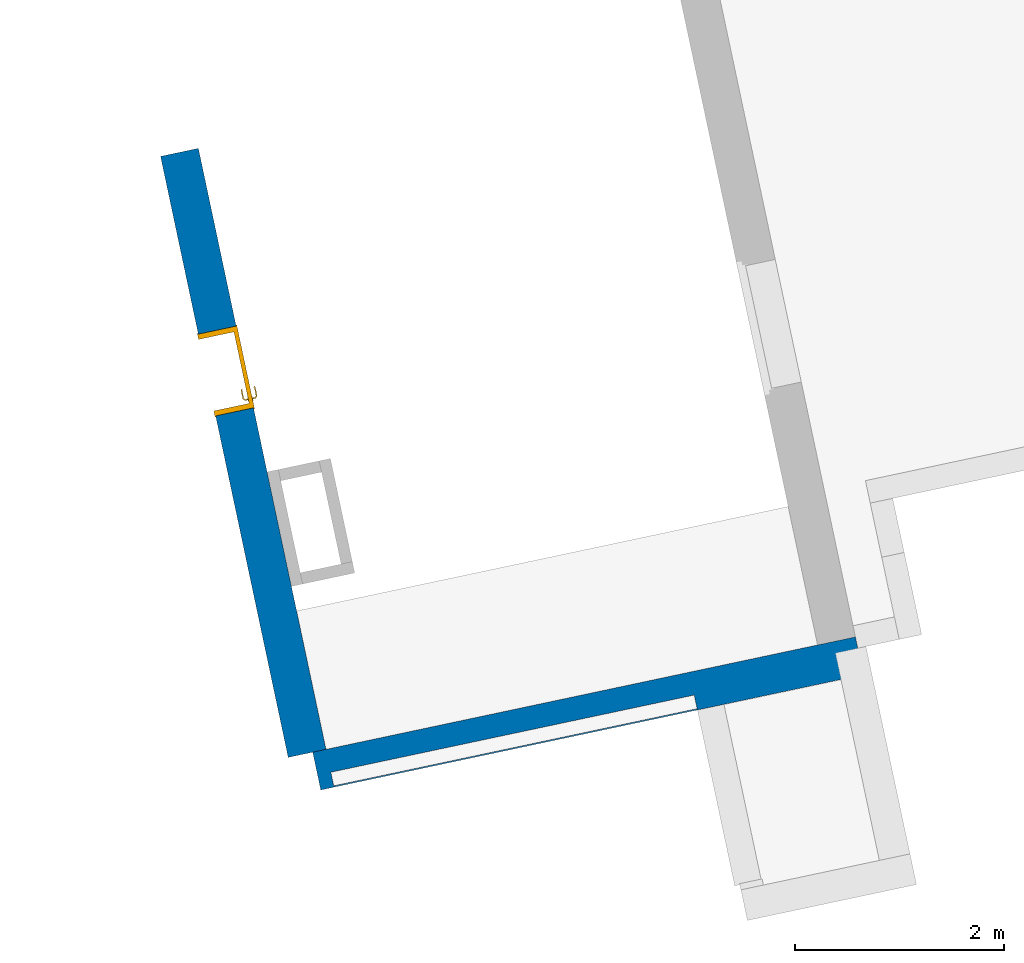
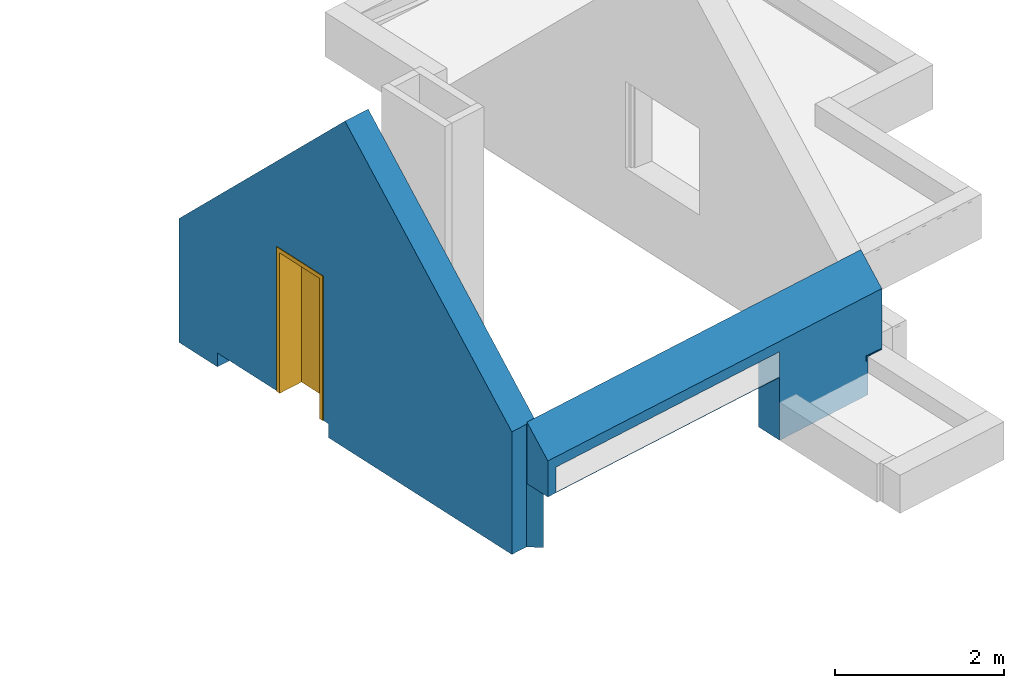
"""IFC2X3 building model written with IfcOpenShell, lengths in centimetres."""

import ifcopenshell
import ifcopenshell.guid

model = None  # the IFC model being written
_history = None  # IfcOwnerHistory: only IFC2X3 demands one
_inside = {}  # id of a spatial element -> (the spatial element, [elements in it])
_under = {}  # id of a project, library or spatial element -> (it, [spatial elements below it])
_declared = {}  # id of a project -> (the project, [libraries it declares])
_typed = {}  # id of a type object -> (the type object, [elements of that type])
_made_of = {}  # id of a material, layer set ... -> (it, [elements and type objects made of it])


def new_model(schema):
    """Start an empty IFC model of exactly this schema.

    Asked for "IFC4X3", IfcOpenShell would pick the latest addendum, in which some entities
    have other attributes; the version numbers below select the first issue.
    IFC2X3 requires an IfcOwnerHistory on every rooted entity: one is made here for all.
    """
    global model, _history
    if schema == "IFC4X3":
        model = ifcopenshell.file(schema_version=(4, 3, 0, 0))
    else:
        model = ifcopenshell.file(schema=schema)
    _inside.clear()
    _under.clear()
    _declared.clear()
    _typed.clear()
    _made_of.clear()
    _history = None
    if model.schema == "IFC2X3":
        org = make("IfcOrganization", Name="unknown")
        user = make(
            "IfcPersonAndOrganization",
            ThePerson=make("IfcPerson", FamilyName="unknown"),
            TheOrganization=org,
        )
        app = make(
            "IfcApplication",
            ApplicationDeveloper=org,
            Version="unknown",
            ApplicationFullName="unknown",
            ApplicationIdentifier="unknown",
        )
        _history = make(
            "IfcOwnerHistory",
            OwningUser=user,
            OwningApplication=app,
            ChangeAction="ADDED",
            CreationDate=0,
        )
    return model


def make(cls, **values):
    """One entity of the class cls with the attributes given. An attribute that is None is left unset."""
    return model.create_entity(
        cls, **{name: value for name, value in values.items() if value is not None}
    )


def entity(cls, *values):
    """Any entity or typed value of the class cls, its attributes in the order of the schema. None: left unset."""
    e = model.create_entity(cls)
    for i, value in enumerate(values):
        if value is not None:
            e[i] = value
    return e


def rooted(cls, **values):
    """An entity with a GlobalId (a new one), such as an element, a storey or a relation."""
    return make(cls, GlobalId=ifcopenshell.guid.new(), OwnerHistory=_history, **values)


def si_unit(unit_type, name, prefix=None):
    """IfcSIUnit, for example si_unit("LENGTHUNIT", "METRE", prefix="MILLI")."""
    return make("IfcSIUnit", UnitType=unit_type, Prefix=prefix, Name=name)


def converted_unit(unit_type, name, factor, base, dimensions=None, offset=None):
    """IfcConversionBasedUnit, such as the inch: factor (a typed value) times the base unit."""
    return make(
        "IfcConversionBasedUnit"
        if offset is None
        else "IfcConversionBasedUnitWithOffset",
        ConversionOffset=offset,
        Dimensions=None
        if dimensions is None
        else entity("IfcDimensionalExponents", *dimensions),
        UnitType=unit_type,
        Name=name,
        ConversionFactor=make(
            "IfcMeasureWithUnit", ValueComponent=factor, UnitComponent=base
        ),
    )


def derived_unit(unit_type, elements):
    """IfcDerivedUnit: a product of units, each with its exponent."""
    return make(
        "IfcDerivedUnit",
        Elements=[
            make("IfcDerivedUnitElement", Unit=unit, Exponent=power)
            for unit, power in elements
        ],
        UnitType=unit_type,
    )


def assignment(units):
    """IfcUnitAssignment: the units of a project."""
    return None if units is None else make("IfcUnitAssignment", Units=units)


def point(xyz):
    """IfcCartesianPoint."""
    return None if xyz is None else make("IfcCartesianPoint", Coordinates=xyz)


def direction(xyz):
    """IfcDirection."""
    return None if xyz is None else make("IfcDirection", DirectionRatios=xyz)


def frame(location, z_axis=None, x_axis=None):
    """IfcAxis2Placement3D, a coordinate frame: its origin and axes. An axis left out is left unset."""
    return make(
        "IfcAxis2Placement3D",
        Location=point(location),
        Axis=direction(z_axis),
        RefDirection=direction(x_axis),
    )


def frame_2d(location, x_axis=None):
    """IfcAxis2Placement2D, a coordinate frame in the plane: its origin and x axis."""
    return make(
        "IfcAxis2Placement2D", Location=point(location), RefDirection=direction(x_axis)
    )


def origin():
    """The frame at (0, 0, 0) with its axes left unset."""
    return frame((0.0, 0.0, 0.0))


def place(relative_to, where):
    """IfcLocalPlacement: puts the frame where relative to a parent placement (None: the world)."""
    return make(
        "IfcLocalPlacement", PlacementRelTo=relative_to, RelativePlacement=where
    )


def context(
    kind, dimensions, precision=None, world=None, true_north=None, identifier=None
):
    """IfcGeometricRepresentationContext, for example the 3D "Model" context."""
    return make(
        "IfcGeometricRepresentationContext",
        ContextIdentifier=identifier,
        ContextType=kind,
        CoordinateSpaceDimension=dimensions,
        Precision=precision,
        WorldCoordinateSystem=world,
        TrueNorth=true_north,
    )


def subcontext(parent, identifier, kind, view, scale=None):
    """IfcGeometricRepresentationSubContext, for example "Body" below "Model"."""
    return make(
        "IfcGeometricRepresentationSubContext",
        ContextIdentifier=identifier,
        ContextType=kind,
        ParentContext=parent,
        TargetScale=scale,
        TargetView=view,
    )


def project(units=None, contexts=None):
    """IfcProject with its units and contexts."""
    return rooted(
        "IfcProject",
        Name="project",
        RepresentationContexts=contexts,
        UnitsInContext=assignment(units),
    )


def spatial(cls, under=None, at=None, **own):
    """A site, building, storey or space (cls), placed at a placement, below another one or the project."""
    s = rooted(cls, ObjectPlacement=at, **own)
    if under is not None:
        _under.setdefault(under.id(), (under, []))[1].append(s)
    return s


def profile(cls, at=None, kind="AREA", **sizes):
    """A parametric profile (cls). Its sizes go by their IFC names, for example OverallWidth=200.0."""
    return make(cls, ProfileType=kind, Position=at, **sizes)


def rectangle(**sizes):
    """IfcRectangleProfileDef."""
    return profile("IfcRectangleProfileDef", **sizes)


def extrude(swept, where, along, depth):
    """IfcExtrudedAreaSolid: the profile swept, set in the frame where, extruded along a direction by depth."""
    return make(
        "IfcExtrudedAreaSolid",
        SweptArea=swept,
        Position=where,
        ExtrudedDirection=direction(along),
        Depth=depth,
    )


def faces_of(points, faces, orient=None, outer=None):
    """IfcFace entities. A face is a list of loops; a loop is a list of indices into points, from 0.

    orient and outer hold one flag for each loop. By default every Orientation is true, the
    first loop of a face is its IfcFaceOuterBound and the others are IfcFaceBound.
    """
    made = []
    for i, loops in enumerate(faces):
        bounds = []
        for j, loop in enumerate(loops):
            is_outer = j == 0 if outer is None else outer[i][j]
            bounds.append(
                make(
                    "IfcFaceOuterBound" if is_outer else "IfcFaceBound",
                    Bound=make("IfcPolyLoop", Polygon=[points[k] for k in loop]),
                    Orientation=True if orient is None else orient[i][j],
                )
            )
        made.append(make("IfcFace", Bounds=bounds))
    return made


def faceted_brep(points, faces, orient=None, outer=None, voids=None):
    """IfcFacetedBrep: a solid bounded by flat faces; with voids (closed shells), ...WithVoids."""
    shared = [point(p) for p in points]
    hull = make("IfcClosedShell", CfsFaces=faces_of(shared, faces, orient, outer))
    if voids is None:
        return make("IfcFacetedBrep", Outer=hull)
    return make(
        "IfcFacetedBrepWithVoids",
        Outer=hull,
        Voids=[
            make(cls, CfsFaces=faces_of(shared, fs, o, b)) for cls, fs, o, b in voids
        ],
    )


def shape(context_of_items, identifier, shape_type, items):
    """IfcShapeRepresentation: the items that make up one representation, for example the "Body"."""
    return make(
        "IfcShapeRepresentation",
        ContextOfItems=context_of_items,
        RepresentationIdentifier=identifier,
        RepresentationType=shape_type,
        Items=items,
    )


def source(mapping_origin, context_of_items, identifier, shape_type, items):
    """IfcRepresentationMap: a shape defined once, which mapped items show again and again."""
    return make(
        "IfcRepresentationMap",
        MappingOrigin=mapping_origin,
        MappedRepresentation=shape(context_of_items, identifier, shape_type, items),
    )


def transform(
    local_origin,
    x_axis=None,
    y_axis=None,
    z_axis=None,
    scale=None,
    scale2=None,
    scale3=None,
    uniform=True,
):
    """IfcCartesianTransformationOperator3D, or its non-uniform kind. x_axis, y_axis, z_axis: its Axis1, 2, 3."""
    if uniform:
        return make(
            "IfcCartesianTransformationOperator3D",
            Axis1=direction(x_axis),
            Axis2=direction(y_axis),
            LocalOrigin=point(local_origin),
            Scale=scale,
            Axis3=direction(z_axis),
        )
    return make(
        "IfcCartesianTransformationOperator3DnonUniform",
        Axis1=direction(x_axis),
        Axis2=direction(y_axis),
        LocalOrigin=point(local_origin),
        Scale=scale,
        Axis3=direction(z_axis),
        Scale2=scale2,
        Scale3=scale3,
    )


def mapped(mapping_source, mapping_target):
    """IfcMappedItem: shows the shape of a source again, moved by a transform."""
    return make(
        "IfcMappedItem", MappingSource=mapping_source, MappingTarget=mapping_target
    )


def material(Name=None, Category=None):
    """IfcMaterial."""
    return make("IfcMaterial", Name=Name, Category=Category)


def layer(
    of_material, thickness, ventilated=None, Name=None, Category=None, Priority=None
):
    """IfcMaterialLayer: one layer of a wall or slab, of a material (None: an air gap)."""
    return make(
        "IfcMaterialLayer",
        Material=of_material,
        LayerThickness=thickness,
        IsVentilated=ventilated,
        Name=Name,
        Category=Category,
        Priority=Priority,
    )


def layer_set(layers, Name=None):
    """IfcMaterialLayerSet."""
    return make("IfcMaterialLayerSet", MaterialLayers=layers, LayerSetName=Name)


def made_of(thing, what):
    """Note that an element or type object is made of a material, layer set ...; save() writes the relation."""
    if what is not None:
        _made_of.setdefault(what.id(), (what, []))[1].append(thing)
    return thing


def type_object(cls, material=None, **own):
    """A type object (cls), such as IfcWallType, which elements share."""
    return made_of(rooted(cls, **own), material)


def type_shapes(of_type, sources):
    """Give a type object the sources (RepresentationMaps) that its elements show as mapped items."""
    of_type.RepresentationMaps = sources


def element(
    cls,
    number,
    at=None,
    inside=None,
    cuts=None,
    type_object=None,
    material=None,
    context=None,
    identifier="Body",
    shape_type=None,
    held_by="IfcProductDefinitionShape",
    body=None,
    shapes=None,
    **own,
):
    """One element of the class cls, such as IfcWall. Its Tag is "e" and its number.

    at: its placement. inside: the storey or other place that contains it. cuts: it is an
    opening in that element (IfcRelVoidsElement). A single representation is given by context,
    identifier, shape_type and body (its items); several are given by shapes. held_by: the class
    of the entity that holds the representations. save() writes the other relations.
    """
    e = rooted(cls, Tag="e%d" % number, ObjectPlacement=at, **own)
    if body is not None:
        shapes = [shape(context, identifier, shape_type, body)]
    if shapes is not None:
        e.Representation = make(held_by, Representations=shapes)
    if inside is not None:
        _inside.setdefault(inside.id(), (inside, []))[1].append(e)
    if cuts is not None:
        rooted(
            "IfcRelVoidsElement", RelatingBuildingElement=cuts, RelatedOpeningElement=e
        )
    if type_object is not None:
        _typed.setdefault(type_object.id(), (type_object, []))[1].append(e)
    return made_of(e, material)


def fill(opening, filler):
    """IfcRelFillsElement: the door or window that sits in an opening."""
    return rooted(
        "IfcRelFillsElement",
        RelatingOpeningElement=opening,
        RelatedBuildingElement=filler,
    )


def aggregate(whole, parts):
    """IfcRelAggregates: a whole, such as a stair, and the parts it consists of."""
    return rooted("IfcRelAggregates", RelatingObject=whole, RelatedObjects=parts)


def save(model, path):
    """Write the relations noted so far, then the file.

    IfcRelAggregates (storeys below a building ...), IfcRelContainedInSpatialStructure (elements
    in a storey), IfcRelDefinesByType, IfcRelAssociatesMaterial and IfcRelDeclares: one each for
    every whole, place, type object, material and project.
    """
    for whole, parts in _under.values():
        aggregate(whole, parts)
    for where, things in _inside.values():
        rooted(
            "IfcRelContainedInSpatialStructure",
            RelatedElements=things,
            RelatingStructure=where,
        )
    for kind, things in _typed.values():
        rooted("IfcRelDefinesByType", RelatedObjects=things, RelatingType=kind)
    for what, things in _made_of.values():
        rooted("IfcRelAssociatesMaterial", RelatedObjects=things, RelatingMaterial=what)
    for by, libraries in _declared.values():
        rooted("IfcRelDeclares", RelatingContext=by, RelatedDefinitions=libraries)
    model.write(path)


model = new_model("IFC2X3")

# Units and contexts
model_context = context("Model", 3, precision=0.001, world=origin(), true_north=direction((6.12303176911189e-17, 1.0)))
body_context = subcontext(model_context, "Body", "Model", "MODEL_VIEW")
ifc_project = project(units=[si_unit("LENGTHUNIT", "METRE", prefix="CENTI"), si_unit("AREAUNIT", "SQUARE_METRE"), si_unit("VOLUMEUNIT", "CUBIC_METRE"), converted_unit("PLANEANGLEUNIT", "DEGREE", entity("IfcRatioMeasure", 0.0174532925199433), si_unit("PLANEANGLEUNIT", "RADIAN"), dimensions=[0, 0, 0, 0, 0, 0, 0]), si_unit("MASSUNIT", "GRAM", prefix="KILO"), derived_unit("MASSDENSITYUNIT", [(si_unit("MASSUNIT", "GRAM", prefix="KILO"), 1), (si_unit("LENGTHUNIT", "METRE"), -3)]), derived_unit("IONCONCENTRATIONUNIT", [(si_unit("MASSUNIT", "GRAM", prefix="KILO"), 1), (si_unit("LENGTHUNIT", "METRE"), -3)]), derived_unit("MOMENTOFINERTIAUNIT", [(si_unit("LENGTHUNIT", "METRE"), 4)]), si_unit("TIMEUNIT", "SECOND"), si_unit("FREQUENCYUNIT", "HERTZ"), si_unit("THERMODYNAMICTEMPERATUREUNIT", "DEGREE_CELSIUS"), derived_unit("THERMALTRANSMITTANCEUNIT", [(si_unit("MASSUNIT", "GRAM", prefix="KILO"), 1), (si_unit("THERMODYNAMICTEMPERATUREUNIT", "KELVIN"), -1), (si_unit("TIMEUNIT", "SECOND"), -3)]), derived_unit("THERMALCONDUCTANCEUNIT", [(si_unit("MASSUNIT", "GRAM", prefix="KILO"), 1), (si_unit("THERMODYNAMICTEMPERATUREUNIT", "KELVIN"), -1), (si_unit("TIMEUNIT", "SECOND"), -3), (si_unit("LENGTHUNIT", "METRE"), 1)]), derived_unit("VOLUMETRICFLOWRATEUNIT", [(si_unit("LENGTHUNIT", "METRE"), 3), (si_unit("TIMEUNIT", "SECOND"), -1)]), derived_unit("MASSFLOWRATEUNIT", [(si_unit("MASSUNIT", "GRAM", prefix="KILO"), 1), (si_unit("TIMEUNIT", "SECOND"), -1)]), derived_unit("ROTATIONALFREQUENCYUNIT", [(si_unit("TIMEUNIT", "SECOND"), -1)]), si_unit("ELECTRICCURRENTUNIT", "AMPERE"), si_unit("ELECTRICVOLTAGEUNIT", "VOLT"), si_unit("POWERUNIT", "WATT"), si_unit("FORCEUNIT", "NEWTON", prefix="KILO"), si_unit("ILLUMINANCEUNIT", "LUX"), si_unit("LUMINOUSFLUXUNIT", "LUMEN"), si_unit("LUMINOUSINTENSITYUNIT", "CANDELA"), derived_unit("USERDEFINED", [(si_unit("MASSUNIT", "GRAM", prefix="KILO"), -1), (si_unit("LENGTHUNIT", "METRE"), -2), (si_unit("TIMEUNIT", "SECOND"), 3), (si_unit("LUMINOUSFLUXUNIT", "LUMEN"), 1)]), derived_unit("USERDEFINED", [(si_unit("MASSUNIT", "GRAM", prefix="KILO"), 1), (si_unit("TIMEUNIT", "SECOND"), -3), (si_unit("LENGTHUNIT", "METRE"), 3), (si_unit("ELECTRICCURRENTUNIT", "AMPERE"), -2)]), derived_unit("SOUNDPOWERUNIT", [(si_unit("MASSUNIT", "GRAM", prefix="KILO"), 1), (si_unit("TIMEUNIT", "SECOND"), -3), (si_unit("LENGTHUNIT", "METRE"), 2)]), derived_unit("SOUNDPRESSUREUNIT", [(si_unit("MASSUNIT", "GRAM", prefix="KILO"), 1), (si_unit("LENGTHUNIT", "METRE"), -1), (si_unit("TIMEUNIT", "SECOND"), -2)]), derived_unit("LINEARVELOCITYUNIT", [(si_unit("LENGTHUNIT", "METRE"), 1), (si_unit("TIMEUNIT", "SECOND"), -1)]), si_unit("PRESSUREUNIT", "PASCAL"), derived_unit("USERDEFINED", [(si_unit("MASSUNIT", "GRAM", prefix="KILO"), 1), (si_unit("LENGTHUNIT", "METRE"), -2), (si_unit("TIMEUNIT", "SECOND"), -2)]), derived_unit("LINEARFORCEUNIT", [(si_unit("MASSUNIT", "GRAM", prefix="KILO"), 1), (si_unit("TIMEUNIT", "SECOND"), -2)]), derived_unit("PLANARFORCEUNIT", [(si_unit("MASSUNIT", "GRAM", prefix="KILO"), 1), (si_unit("LENGTHUNIT", "METRE"), -1), (si_unit("TIMEUNIT", "SECOND"), -2)]), derived_unit("SPECIFICHEATCAPACITYUNIT", [(si_unit("THERMODYNAMICTEMPERATUREUNIT", "KELVIN"), -1), (si_unit("LENGTHUNIT", "METRE"), 2), (si_unit("TIMEUNIT", "SECOND"), -2)]), derived_unit("HEATINGVALUEUNIT", [(si_unit("LENGTHUNIT", "METRE"), 2), (si_unit("TIMEUNIT", "SECOND"), -2)]), derived_unit("VAPORPERMEABILITYUNIT", [(si_unit("LENGTHUNIT", "METRE"), -1), (si_unit("TIMEUNIT", "SECOND"), 1)]), derived_unit("DYNAMICVISCOSITYUNIT", [(si_unit("MASSUNIT", "GRAM", prefix="KILO"), 1), (si_unit("TIMEUNIT", "SECOND"), -1), (si_unit("LENGTHUNIT", "METRE"), -1)]), derived_unit("THERMALEXPANSIONCOEFFICIENTUNIT", [(si_unit("THERMODYNAMICTEMPERATUREUNIT", "KELVIN"), -1)]), derived_unit("MODULUSOFELASTICITYUNIT", [(si_unit("MASSUNIT", "GRAM", prefix="KILO"), 1), (si_unit("LENGTHUNIT", "METRE"), -1), (si_unit("TIMEUNIT", "SECOND"), -2)]), derived_unit("ISOTHERMALMOISTURECAPACITYUNIT", [(si_unit("LENGTHUNIT", "METRE"), 3), (si_unit("MASSUNIT", "GRAM", prefix="KILO"), -1)]), derived_unit("MOISTUREDIFFUSIVITYUNIT", [(si_unit("TIMEUNIT", "SECOND"), -1), (si_unit("LENGTHUNIT", "METRE"), 2)])], contexts=[model_context])

# Site, building, storey
site_placement = place(None, frame((14083.8920177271, -6853.25409548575, 6900.0), z_axis=(0.0, 0.0, 1.0), x_axis=(0.978188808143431, 0.207717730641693, 0.0)))
site = spatial("IfcSite", under=ifc_project, at=site_placement, Name="Surface", CompositionType="ELEMENT")
building_placement = place(site_placement, origin())
building = spatial("IfcBuilding", under=site, at=building_placement, CompositionType="ELEMENT")
storey_1_placement = place(building_placement, frame((0.0, 0.0, 269.0)))
storey_1 = spatial("IfcBuildingStorey", under=building, at=storey_1_placement, Name="***R+1 (SD)***", CompositionType="ELEMENT", Elevation=269.0)

# Wall
ifc_material_1 = material(Name="__ ENDUIT_Blanc")
ifc_layer_1 = layer(ifc_material_1, 2.0)
ifc_material_2 = material(Name="__ BETON_parpaings")
ifc_layer_2 = layer(ifc_material_2, 20.0)
ifc_material_3 = material(Name="__ ISOLANT (pat 1)")
ifc_layer_3 = layer(ifc_material_3, 13.0)
ifc_layer_4 = layer(ifc_material_1, 2.0)
ifc_layer_set = layer_set([ifc_layer_1, ifc_layer_2, ifc_layer_3, ifc_layer_4], Name="Mur de base:*BRIQUE 37 (20 +INT 13+2 + EXT 2) (Iso+BA13)(enduit)")
wall_type = type_object("IfcWallType", Name="Mur de base:*BRIQUE 37 (20 +INT 13+2 + EXT 2) (Iso+BA13)(enduit)", PredefinedType="STANDARD", material=ifc_layer_set)
wall_1_placement = place(storey_1_placement, frame((-6783.9551432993, 14783.1724778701, 0.0)))
element("IfcWall", 1, at=wall_1_placement, inside=storey_1, type_object=wall_type, Name="Mur de base:*BRIQUE 37 (20 +INT 13+2 + EXT 2) (Iso+BA13)(enduit)", ObjectType="Mur de base:*BRIQUE 37 (20 +INT 13+2 + EXT 2) (Iso+BA13)(enduit)", context=body_context, shape_type="Brep", body=[
    faceted_brep([(0.0, -18.500000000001, 91.0079571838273), (368.641924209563, -18.500000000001, 91.0079571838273), (368.641924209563, -18.500000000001, 55.0), (368.641924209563, -18.500000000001, 0.0), (394.641924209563, -18.500000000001, 0.0), (509.141924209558, -18.500000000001, 0.0), (509.141924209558, -18.500000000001, 55.0), (531.141924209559, -18.500000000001, 55.0), (531.141924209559, -18.500000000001, 55.8148964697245), (507.19692641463, -18.500000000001, 56.6510742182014), (506.952629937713, -18.500000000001, 49.6553384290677), (505.953239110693, -18.500000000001, 49.6902379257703), (506.187785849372, -18.500000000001, 56.406777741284), (506.232435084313, -18.500000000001, 57.685364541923), (531.141924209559, -18.500000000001, 56.8155060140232), (531.141924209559, -18.500000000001, 143.0), (0.0, -18.500000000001, 143.0), (13.0, -18.500000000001, 127.962118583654), (368.641924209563, -18.500000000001, 127.962118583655), (368.641924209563, -18.500000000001, 91.7198769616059), (13.0, -18.500000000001, 91.7198769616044), (0.0, 18.4999999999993, 91.0079571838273), (0.0, 18.4999999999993, 180.0), (494.141924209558, 18.4999999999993, 180.0), (531.141924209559, 18.4999999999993, 180.0), (531.141924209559, 18.4999999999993, 0.0), (494.141924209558, 18.4999999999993, 0.0), (368.641924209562, 18.4999999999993, 0.0), (368.641924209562, 18.4999999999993, 72.0466279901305), (368.641924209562, 18.4999999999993, 108.28886961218), (13.0, 18.4999999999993, 108.288869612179), (13.0, 18.4999999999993, 91.0079571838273), (509.141924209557, 7.49486685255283, 0.0), (509.141924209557, 7.49486685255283, 55.0), (531.141924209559, 7.49486685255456, 55.0), (531.141924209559, 7.49486685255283, 0.0), (531.141924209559, 7.49486685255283, 51.5003654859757), (531.141924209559, 7.49486685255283, 52.5004060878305), (531.141924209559, 7.49486685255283, 56.8155060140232), (531.141924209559, 7.49486685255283, 55.8148964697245), (506.952629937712, 7.49486685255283, 49.6553384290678), (507.196926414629, 7.49486685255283, 56.6510742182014), (506.232435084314, 7.49486685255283, 57.685364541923), (506.187785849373, 7.49486685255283, 56.4067777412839), (505.953239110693, 7.49486685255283, 49.6902379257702), (13.0, -17.1610736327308, 91.0079571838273), (368.641924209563, -17.1610736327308, 91.0079571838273)], [[[0, 1, 2, 3, 4, 5, 6, 7, 8, 9, 10, 11, 12, 13, 14, 15, 16], [17, 18, 19, 20]], [[21, 22, 23, 24, 25, 26, 27, 28, 29, 30, 31]], [[16, 15, 24, 23, 22]], [[32, 33, 6, 5]], [[6, 33, 34, 7]], [[33, 32, 35, 36, 37, 34]], [[25, 24, 15, 14, 38, 39, 8, 7, 34, 37, 36, 35]], [[40, 41, 39, 38, 42, 43, 44]], [[39, 41, 9, 8]], [[43, 42, 13, 12]], [[42, 38, 14, 13]], [[41, 40, 10, 9]], [[44, 43, 12, 11]], [[40, 44, 11, 10]], [[1, 0, 21, 31, 45, 46]], [[0, 16, 22, 21]], [[27, 26, 25, 35, 32, 5, 4, 3]], [[3, 2, 1, 46, 19, 18, 29, 28, 27]], [[29, 18, 17, 30]], [[19, 46, 45, 20]], [[30, 17, 20, 45, 31]]]),
])

# Wall, opening
wall_2_placement = place(storey_1_placement, frame((-6789.4551432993, 14787.214901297, 0.0), z_axis=(0.0, 0.0, 1.0), x_axis=(0.0, 1.0, 0.0)))
wall_2 = element("IfcWall", 2, at=wall_2_placement, inside=storey_1, type_object=wall_type, Name="Mur de base:*BRIQUE 37 (20 +INT 13+2 + EXT 2) (Iso+BA13)(enduit)", ObjectType="Mur de base:*BRIQUE 37 (20 +INT 13+2 + EXT 2) (Iso+BA13)(enduit)", context=body_context, shape_type="Brep", body=[
    faceted_brep([(428.72424323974, -18.5000000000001, 227.5), (428.72424323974, -18.5000000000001, 20.0), (602.724243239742, -18.5000000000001, 20.0), (602.724243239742, -18.5000000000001, 178.693308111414), (309.437563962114, -18.5000000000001, 471.979987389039), (0.0, -18.5000000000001, 162.542423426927), (0.0, -18.5000000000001, 0.0), (151.957576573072, -18.5000000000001, 0.0), (151.957576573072, -18.5000000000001, 20.0), (348.724243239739, -18.5000000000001, 20.0), (348.724243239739, -18.5000000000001, 227.5), (14.4575765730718, 18.5000000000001, 0.0), (14.4575765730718, 18.5000000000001, 177.0), (265.090909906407, 18.5000000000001, 427.633333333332), (291.253860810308, 18.5000000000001, 453.796284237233), (309.437563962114, 18.5000000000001, 471.979987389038), (602.724243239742, 18.5000000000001, 178.693308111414), (602.724243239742, 18.5000000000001, 175.693308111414), (602.724243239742, 18.5000000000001, 20.0), (602.724243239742, 18.5000000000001, 0.0), (534.72424323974, 18.5000000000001, 0.0), (534.72424323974, 18.5000000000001, 20.0), (522.724243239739, 18.5000000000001, 20.0), (428.72424323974, 18.5000000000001, 20.0), (428.724243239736, 18.5000000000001, 227.5), (348.724243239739, 18.5000000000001, 227.5), (348.724243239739, 18.5000000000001, 20.0), (338.810729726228, 18.5000000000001, 20.0), (338.810729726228, 18.5000000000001, 0.0), (149.957576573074, 18.5000000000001, 0.0), (14.45757657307, -5.01809173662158, 0.0), (338.810729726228, 0.0, 0.0), (151.957576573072, 0.0, 0.0), (14.45757657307, -5.01809173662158, 177.0), (602.724243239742, 0.0, 20.0), (602.724243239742, 0.0, 0.0), (534.72424323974, 0.0, 0.0), (534.72424323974, 0.0, 20.0), (151.957576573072, 0.0, 20.0), (338.810729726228, 0.0, 20.0)], [[[0, 1, 2, 3, 4, 5, 6, 7, 8, 9, 10]], [[11, 12, 13, 14, 15, 16, 17, 18, 19, 20, 21, 22, 23, 24, 25, 26, 27, 28, 29]], [[6, 30, 11, 29, 28, 31, 32, 7]], [[0, 24, 23, 1]], [[24, 0, 10, 25]], [[25, 10, 9, 26]], [[5, 4, 15, 14, 13, 12, 33]], [[4, 3, 16, 15]], [[19, 18, 17, 16, 3, 2, 34, 35]], [[6, 5, 33, 30]], [[12, 11, 30, 33]], [[36, 37, 21, 20]], [[37, 36, 35, 34]], [[38, 32, 31, 39]], [[39, 31, 28, 27]], [[38, 39, 27, 26, 9, 8]], [[32, 38, 8, 7]], [[21, 37, 34, 2, 1, 23, 22]], [[20, 19, 35, 36]]]),
])
opening_placement = place(wall_2_placement, frame((428.72424323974, 18.5, 20.0)))
opening = element("IfcOpeningElement", 3, at=opening_placement, cuts=wall_2, Name="*Porte_alveolaire:Pa 73 x 204:1", ObjectType="Opening", context=body_context, shape_type="SweptSolid", body=[
    extrude(rectangle(XDim=207.5, YDim=79.9999999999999, at=frame_2d((103.75, 40.0000000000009), x_axis=(1.0, 0.0))), frame((0.0, 0.0, 0.0), z_axis=(0.0, -1.0, 0.0), x_axis=(0.0, 0.0, 1.0)), (0.0, 0.0, 1.0), 37.0),
])

# Storey
storey_2_placement = place(building_placement, frame((0.0, 0.0, 289.0)))
storey_2 = spatial("IfcBuildingStorey", under=building, at=storey_2_placement, Name="_R+1", CompositionType="ELEMENT", Elevation=289.0)

# Door
ifc_material_4 = material(Name="<Unnamed>")
door_style = type_object("IfcDoorStyle", Name="*Porte_alveolaire:Pa 73 x 204", ConstructionType="NOTDEFINED", OperationType="NOTDEFINED", ParameterTakesPrecedence=False, Sizeable=False, material=ifc_material_4)
shared_shape = source(origin(), body_context, "Body", "Brep", [
    faceted_brep([(8.79747013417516, 3.69999999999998, 89.2219559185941), (9.20252986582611, 3.69999999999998, 89.221955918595), (9.60000000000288, 3.69999999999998, 89.3000000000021), (9.60000000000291, 3.69999999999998, 90.699999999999), (9.20252986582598, 3.69999999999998, 90.7780440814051), (8.79747013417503, 3.69999999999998, 90.7780440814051), (8.39999999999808, 3.69999999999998, 90.699999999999), (8.39999999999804, 3.69999999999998, 89.2999999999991), (9.60000000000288, 5.94852045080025, 89.3000000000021), (9.60000000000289, 5.94852045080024, 90.699999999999), (9.20252986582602, 6.11315797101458, 90.7780440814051), (10.5838906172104, 7.49451872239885, 90.7780440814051), (10.4161093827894, 7.89957845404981, 90.7780440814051), (8.79747013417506, 6.28093920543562, 90.7780440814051), (19.5684749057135, 6.84673156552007, 90.7780440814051), (19.8548953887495, 7.1331520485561, 90.7780440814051), (19.0884689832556, 7.89957845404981, 90.7780440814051), (18.9206877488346, 7.49451872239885, 90.7780440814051), (8.3999999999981, 6.44557672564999, 90.699999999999), (8.39999999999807, 6.44557672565, 89.2999999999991), (8.79747013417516, 6.28093920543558, 89.2219559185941), (10.4161093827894, 7.89957845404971, 89.2219559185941), (10.5838906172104, 7.49451872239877, 89.221955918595), (9.2025298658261, 6.11315797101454, 89.221955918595), (19.8548953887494, 7.133152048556, 89.221955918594), (19.5684749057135, 6.84673156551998, 89.221955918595), (18.9206877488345, 7.49451872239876, 89.221955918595), (19.0884689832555, 7.89957845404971, 89.221955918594), (10.7485281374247, 7.09704858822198, 89.3000000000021), (10.7485281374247, 7.09704858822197, 90.699999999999), (10.251471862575, 8.29704858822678, 90.699999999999), (10.251471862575, 8.2970485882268, 89.2999999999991), (14.7522879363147, 7.09704858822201, 89.300000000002), (18.7560502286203, 7.09704858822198, 89.300000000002), (18.7560502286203, 7.09704858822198, 90.699999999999), (14.7522891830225, 7.09704858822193, 90.699999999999), (14.7522891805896, 7.71249275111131, 90.7878116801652), (19.2531065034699, 8.29704858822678, 90.699999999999), (15.260057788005, 8.29704858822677, 90.699999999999), (19.2531065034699, 8.2970485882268, 89.2999999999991), (14.2445205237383, 8.29704858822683, 89.2999999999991), (14.7522892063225, 7.71249274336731, 89.2121883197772), (19.287421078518, 6.56567773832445, 89.300000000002), (20.1359492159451, 7.41420587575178, 89.2999999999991), (20.1359492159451, 7.41420587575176, 90.699999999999), (19.287421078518, 6.56567773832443, 90.699999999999)], [[[0, 1, 2, 3, 4, 5, 6, 7]], [[3, 2, 8, 9]], [[9, 10, 4, 3]], [[10, 11, 12, 13, 5, 4]], [[14, 15, 16, 17]], [[13, 18, 6, 5]], [[7, 6, 18, 19]], [[19, 20, 0, 7]], [[20, 21, 22, 23, 1, 0]], [[24, 25, 26, 27]], [[23, 8, 2, 1]], [[9, 8, 28, 29]], [[29, 11, 10, 9]], [[12, 30, 18, 13]], [[19, 18, 30, 31]], [[31, 21, 20, 19]], [[22, 28, 8, 23]], [[28, 32, 33, 34, 35, 29]], [[11, 35, 36]], [[16, 37, 38]], [[30, 12, 38]], [[38, 12, 36]], [[36, 35, 17]], [[17, 16, 36]], [[35, 11, 29]], [[34, 17, 35]], [[11, 36, 12]], [[38, 36, 16]], [[31, 30, 38, 37, 39, 40]], [[40, 41, 21]], [[41, 40, 27]], [[21, 31, 40]], [[39, 27, 40]], [[41, 32, 22]], [[22, 21, 41]], [[26, 32, 41]], [[28, 22, 32]], [[32, 26, 33]], [[26, 41, 27]], [[42, 25, 24, 43, 44, 15, 14, 45]], [[34, 33, 42, 45]], [[45, 14, 17, 34]], [[15, 44, 37, 16]], [[39, 37, 44, 43]], [[43, 24, 27, 39]], [[25, 42, 33, 26]]]),
    faceted_brep([(8.79747013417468, -1.30000000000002, 90.7780440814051), (9.20252986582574, -1.30000000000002, 90.7780440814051), (9.6000000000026, -1.30000000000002, 90.6999999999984), (9.60000000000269, -1.30000000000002, 89.3000000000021), (9.20252986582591, -1.30000000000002, 89.221955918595), (8.79747013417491, -1.30000000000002, 89.221955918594), (8.39999999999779, -1.30000000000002, 89.2999999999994), (8.39999999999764, -1.30000000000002, 90.699999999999), (8.39999999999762, -4.06509507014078, 90.6999999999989), (8.79747013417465, -3.9004575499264, 90.7780440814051), (10.4023585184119, -5.50534593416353, 90.7780440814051), (10.570139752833, -5.10028620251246, 90.7780440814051), (9.2025298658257, -3.73267631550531, 90.7780440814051), (19.852181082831, -4.73891952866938, 90.778044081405), (19.5657605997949, -4.45249904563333, 90.778044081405), (18.9179734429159, -5.10028620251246, 90.778044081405), (19.085754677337, -5.50534593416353, 90.778044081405), (9.60000000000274, -3.56803879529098, 90.699999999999), (9.60000000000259, -3.56803879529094, 89.3000000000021), (9.20252986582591, -3.73267631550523, 89.221955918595), (10.5701397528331, -5.10028620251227, 89.221955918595), (10.402358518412, -5.50534593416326, 89.221955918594), (8.79747013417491, -3.90045754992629, 89.221955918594), (19.5657605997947, -4.4524990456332, 89.221955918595), (19.8521810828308, -4.73891952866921, 89.221955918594), (19.0857546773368, -5.50534593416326, 89.221955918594), (18.9179734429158, -5.10028620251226, 89.221955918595), (8.3999999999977, -4.06509507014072, 89.2999999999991), (10.2377209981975, -5.90281606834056, 90.6999999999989), (10.7347772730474, -4.70281606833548, 90.699999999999), (10.7347772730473, -4.70281606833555, 89.3000000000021), (10.2377209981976, -5.90281606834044, 89.2999999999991), (14.2307697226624, -5.90281606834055, 90.6999999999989), (14.7440566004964, -5.31828027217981, 90.7878115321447), (19.2503921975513, -5.90281606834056, 90.6999999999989), (14.7440565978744, -4.70281606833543, 90.699999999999), (18.7533359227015, -4.70281606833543, 90.6999999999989), (18.7533359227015, -4.70281606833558, 89.300000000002), (14.7440563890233, -4.70281606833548, 89.3000000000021), (14.7440565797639, -5.31828027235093, 89.2121884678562), (19.2503921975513, -5.90281606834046, 89.2999999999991), (15.2573436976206, -5.90281606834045, 89.2999999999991), (19.2847067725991, -4.17144521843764, 90.6999999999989), (20.1332349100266, -5.01997335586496, 90.6999999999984), (20.1332349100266, -5.019973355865, 89.2999999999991), (19.2847067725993, -4.17144521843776, 89.3000000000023)], [[[0, 1, 2, 3, 4, 5, 6, 7]], [[8, 9, 0, 7]], [[9, 10, 11, 12, 1, 0]], [[13, 14, 15, 16]], [[12, 17, 2, 1]], [[3, 2, 17, 18]], [[18, 19, 4, 3]], [[19, 20, 21, 22, 5, 4]], [[23, 24, 25, 26]], [[22, 27, 6, 5]], [[7, 6, 27, 8]], [[28, 10, 9, 8]], [[11, 29, 17, 12]], [[18, 17, 29, 30]], [[30, 20, 19, 18]], [[21, 31, 27, 22]], [[8, 27, 31, 28]], [[32, 33, 10]], [[33, 32, 16]], [[10, 28, 32]], [[34, 16, 32]], [[33, 35, 11]], [[11, 10, 33]], [[15, 35, 33]], [[29, 11, 35]], [[35, 15, 36]], [[15, 33, 16]], [[30, 29, 35, 36, 37, 38]], [[20, 38, 39]], [[25, 40, 41]], [[31, 21, 41]], [[41, 21, 39]], [[39, 38, 26]], [[26, 25, 39]], [[38, 20, 30]], [[37, 26, 38]], [[20, 39, 21]], [[41, 39, 25]], [[28, 31, 41, 40, 34, 32]], [[42, 14, 13, 43, 44, 24, 23, 45]], [[43, 13, 16, 34]], [[14, 42, 36, 15]], [[37, 36, 42, 45]], [[45, 23, 26, 37]], [[24, 44, 40, 25]], [[34, 40, 44, 43]]]),
    faceted_brep([(10.03527618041, 3.19999999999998, 76.6003983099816), (11.0, 3.19999999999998, 77.0), (11.0, 3.19999999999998, 98.0), (10.03527618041, 3.19999999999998, 98.3996016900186), (9.0, 3.19999999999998, 98.5358983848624), (7.96472381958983, 3.19999999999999, 98.3996016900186), (7.0, 3.19999999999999, 98.0), (7.0, 3.19999999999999, 77.0), (7.96472381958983, 3.19999999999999, 76.6003983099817), (9.0, 3.19999999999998, 76.4641016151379), (10.03527618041, 3.69999999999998, 98.3996016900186), (11.0, 3.69999999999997, 98.0), (11.0, 3.69999999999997, 77.0), (10.03527618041, 3.69999999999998, 76.6003983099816), (9.0, 3.69999999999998, 76.4641016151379), (7.96472381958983, 3.69999999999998, 76.6003983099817), (7.0, 3.69999999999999, 77.0), (7.0, 3.69999999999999, 98.0), (7.96472381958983, 3.69999999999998, 98.3996016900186), (9.0, 3.69999999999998, 98.5358983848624)], [[[0, 1, 2, 3, 4, 5, 6, 7, 8, 9]], [[10, 11, 12, 13, 14, 15, 16, 17, 18, 19]], [[11, 10, 3, 2]], [[3, 10, 19, 4]], [[19, 18, 5, 4]], [[18, 17, 6, 5]], [[7, 6, 17, 16]], [[16, 15, 8, 7]], [[8, 15, 14, 9]], [[14, 13, 0, 9]], [[13, 12, 1, 0]], [[2, 1, 12, 11]]]),
    faceted_brep([(10.0352761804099, -1.30000000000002, 76.6003983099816), (11.0, -1.30000000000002, 77.0), (11.0, -1.30000000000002, 98.0), (10.03527618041, -1.30000000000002, 98.3996016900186), (9.0, -1.30000000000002, 98.5358983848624), (7.96472381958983, -1.30000000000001, 98.3996016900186), (7.0, -1.30000000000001, 98.0), (7.0, -1.30000000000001, 77.0), (7.9647238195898, -1.30000000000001, 76.6003983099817), (9.0, -1.30000000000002, 76.4641016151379), (10.03527618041, -0.800000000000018, 98.3996016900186), (11.0, -0.800000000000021, 98.0), (11.0, -0.800000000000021, 77.0), (10.0352761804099, -0.800000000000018, 76.6003983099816), (9.0, -0.800000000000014, 76.4641016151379), (7.9647238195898, -0.800000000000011, 76.6003983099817), (7.0, -0.800000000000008, 77.0), (7.0, -0.800000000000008, 98.0), (7.96472381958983, -0.800000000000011, 98.3996016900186), (9.0, -0.800000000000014, 98.5358983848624)], [[[0, 1, 2, 3, 4, 5, 6, 7, 8, 9]], [[10, 11, 12, 13, 14, 15, 16, 17, 18, 19]], [[16, 15, 8, 7]], [[8, 15, 14, 9]], [[14, 13, 0, 9]], [[13, 12, 1, 0]], [[2, 1, 12, 11]], [[11, 10, 3, 2]], [[3, 10, 19, 4]], [[19, 18, 5, 4]], [[18, 17, 6, 5]], [[7, 6, 17, 16]]]),
    faceted_brep([(0.0, 0.0, 0.0), (0.0, 37.0, 0.0), (-1.0, 37.0, 0.0), (-1.0, 37.8000000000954, 0.0), (5.0, 37.8000000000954, 0.0), (5.0, 3.2, 0.0), (3.49999999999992, 3.2, 0.0), (3.49999999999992, -0.800000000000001, 0.0), (-1.0, -0.800000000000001, 0.0), (-1.0, 0.0, 0.0), (0.0, 0.0, 207.5), (0.0, 37.0, 207.5), (80.0, 37.0, 207.5), (80.0, 37.0, 0.0), (81.0, 37.0, 0.0), (81.0, 37.0, 208.5), (-1.0, 37.0, 208.5), (-1.0, 37.8000000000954, 208.5), (81.0, 37.8000000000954, 208.5), (81.0, 37.8000000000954, 0.0), (75.0, 37.8000000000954, 0.0), (75.0, 37.8000000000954, 202.500000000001), (5.0, 37.8000000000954, 202.500000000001), (5.0, 3.2, 202.500000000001), (75.0, 3.2, 202.500000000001), (75.0, 3.2, 0.0), (76.5, 3.2, 0.0), (76.5, 3.2, 204.0), (3.49999999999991, 3.2, 204.0), (3.49999999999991, -0.800000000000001, 204.0), (76.5, -0.800000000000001, 204.0), (76.5, -0.800000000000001, 0.0), (81.0, -0.800000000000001, 0.0), (81.0, -0.800000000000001, 208.5), (-1.0, -0.800000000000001, 208.5), (-1.0, 0.0, 208.5), (81.0, 0.0, 208.5), (81.0, 0.0, 0.0), (80.0, 0.0, 0.0), (80.0, 0.0, 207.5)], [[[0, 1, 2, 3, 4, 5, 6, 7, 8, 9]], [[1, 0, 10, 11]], [[2, 1, 11, 12, 13, 14, 15, 16]], [[3, 2, 16, 17]], [[4, 3, 17, 18, 19, 20, 21, 22]], [[5, 4, 22, 23]], [[6, 5, 23, 24, 25, 26, 27, 28]], [[7, 6, 28, 29]], [[8, 7, 29, 30, 31, 32, 33, 34]], [[9, 8, 34, 35]], [[0, 9, 35, 36, 37, 38, 39, 10]], [[12, 39, 38, 13]], [[38, 37, 32, 31, 26, 25, 20, 19, 14, 13]], [[18, 15, 14, 19]], [[24, 21, 20, 25]], [[30, 27, 26, 31]], [[36, 33, 32, 37]], [[11, 10, 39, 12]], [[17, 16, 15, 18]], [[23, 22, 21, 24]], [[29, 28, 27, 30]], [[35, 34, 33, 36]]]),
    faceted_brep([(3.4999999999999, -0.800000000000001, 204.0), (3.49999999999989, -0.800000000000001, 0.0), (76.4999999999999, -0.800000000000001, 0.0), (76.4999999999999, -0.800000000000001, 204.0), (3.4999999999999, 3.2, 204.0), (76.4999999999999, 3.2, 204.0), (76.4999999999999, 3.2, 0.0), (3.49999999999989, 3.2, 0.0)], [[[0, 1, 2, 3]], [[4, 5, 6, 7]], [[1, 0, 4, 7]], [[2, 1, 7, 6]], [[3, 2, 6, 5]], [[0, 3, 5, 4]]]),
])
type_shapes(door_style, [shared_shape])
door_placement = place(opening_placement, frame((-80.0, -37.0, 0.0)))
door = element("IfcDoor", 4, at=door_placement, inside=storey_2, type_object=door_style, material=ifc_material_4, Name="*Porte_alveolaire:Pa 73 x 204", ObjectType="*Porte_alveolaire:Pa 73 x 204", OverallHeight=207.5, OverallWidth=80.0000000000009, context=body_context, shape_type="MappedRepresentation", body=[
    mapped(shared_shape, transform((0.0, 0.0, 0.0), scale=1.0)),
])

fill(opening, door)

save(model, "model.ifc")
